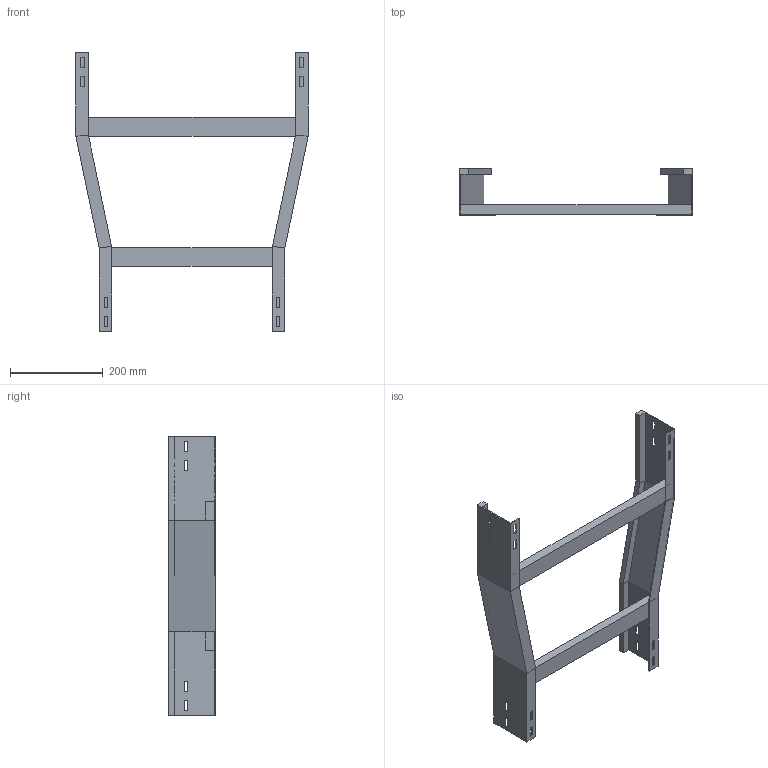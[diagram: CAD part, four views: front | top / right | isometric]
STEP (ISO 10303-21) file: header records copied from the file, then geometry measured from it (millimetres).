
FILE_DESCRIPTION (( 'STEP AP214' ), '1' );
FILE_NAME ('B2X20B4D500XX.step', '2025-09-02T17:14:31', ( '' ), ( '' ), 'SwSTEP 2.0', 'SolidWorks 2023', '' );
FILE_SCHEMA (( 'AUTOMOTIVE_DESIGN' ));
Length unit declared in the file: millimetre
Products named in the file (4): TRAVERSINO_500; SPONDA RID. CENTRALE 500-400_H100; B2X20B4D500XX; TRAVERSINO_400
Assembly tree (3 placements, depth 2):
  B2X20B4D500XX
    SPONDA RID. CENTRALE 500-400_H100
    TRAVERSINO_400
    TRAVERSINO_500
Bounding box: 500 x 100 x 600 mm (x, y, z)
Volume: 1252547.3 mm3; surface area: 456015.5 mm2
Topology: 4 solids, 4 shells, 128 faces, 328 edges, 208 vertices
Faces by surface type: plane 128
Entity records: 3950 total; most frequent: CARTESIAN_POINT 670, ORIENTED_EDGE 656, DIRECTION 596, EDGE_CURVE 328, LINE 328, VECTOR 328, VERTEX_POINT 208, EDGE_LOOP 160
